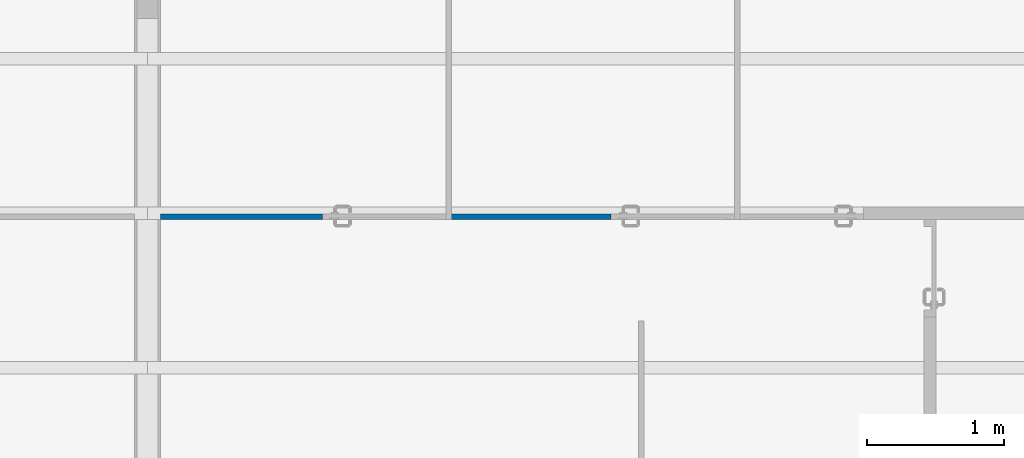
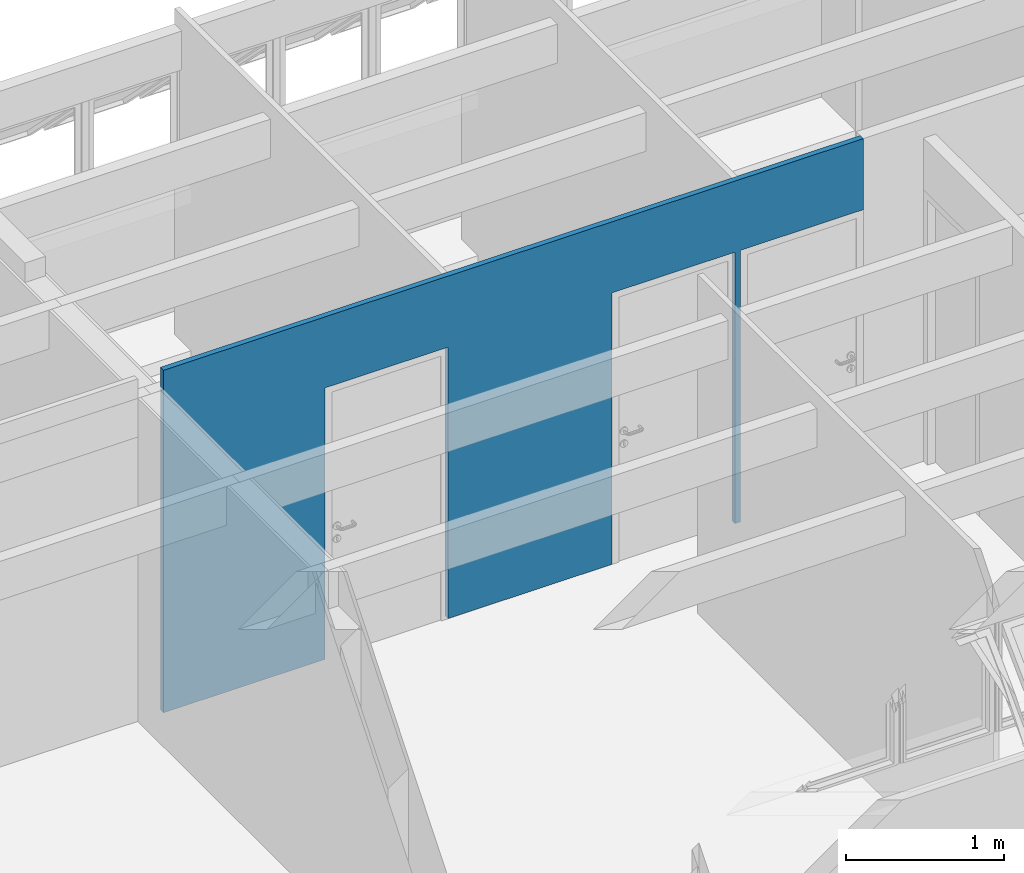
# One storey, part 23 of 37: 1 wall, 3 openings.
"""IFC2X3 building model written with IfcOpenShell, lengths in millimetres."""

from ifc_helpers import new_model, entity, si_unit, converted_unit, derived_unit, money_unit, direction, frame, origin_with_axes, origin_2d_with_axis, place, context, subcontext, project, spatial, polyline, rectangle, outline, extrude, material, layer, layer_set, layer_usage, type_object, element, save


model = new_model("IFC2X3")

# Units and contexts
model_context = context("Model", 3, precision=0.01, world=origin_with_axes(), true_north=direction((0.0, 1.0)))
body_context = subcontext(model_context, "Body", "Model", "MODEL_VIEW")
ifc_project = project(units=[si_unit("LENGTHUNIT", "METRE", prefix="MILLI"), si_unit("AREAUNIT", "SQUARE_METRE"), si_unit("VOLUMEUNIT", "CUBIC_METRE"), converted_unit("PLANEANGLEUNIT", "DEGREE", entity("IfcPlaneAngleMeasure", 0.0174532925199), si_unit("PLANEANGLEUNIT", "RADIAN"), dimensions=[0, 0, 0, 0, 0, 0, 0]), money_unit("USD"), converted_unit("TIMEUNIT", "Year", entity("IfcTimeMeasure", 31556926.0), si_unit("TIMEUNIT", "SECOND"), dimensions=[0, 0, 1, 0, 0, 0, 0]), si_unit("MASSUNIT", "GRAM", prefix="KILO"), si_unit("THERMODYNAMICTEMPERATUREUNIT", "DEGREE_CELSIUS"), si_unit("LUMINOUSINTENSITYUNIT", "LUMEN"), si_unit("ENERGYUNIT", "JOULE", prefix="MEGA"), derived_unit("THERMALCONDUCTANCEUNIT", [(si_unit("POWERUNIT", "WATT"), 1), (si_unit("LENGTHUNIT", "METRE"), -1), (si_unit("THERMODYNAMICTEMPERATUREUNIT", "KELVIN"), -1)]), derived_unit("SPECIFICHEATCAPACITYUNIT", [(si_unit("ENERGYUNIT", "JOULE"), 1), (si_unit("MASSUNIT", "GRAM", prefix="KILO"), -1), (si_unit("THERMODYNAMICTEMPERATUREUNIT", "KELVIN"), -1)]), derived_unit("MASSDENSITYUNIT", [(si_unit("MASSUNIT", "GRAM", prefix="KILO"), 1), (si_unit("VOLUMEUNIT", "CUBIC_METRE"), -1)])], contexts=[model_context])

# Site, building, storey
site_placement = place(None, origin_with_axes())
site = spatial("IfcSite", under=ifc_project, at=site_placement, Name="Local", CompositionType="ELEMENT")
building_placement = place(site_placement, origin_with_axes())
building = spatial("IfcBuilding", under=site, at=building_placement, Name="Construção", CompositionType="ELEMENT")
storey_placement = place(building_placement, origin_with_axes())
storey = spatial("IfcBuildingStorey", under=building, at=storey_placement, Name="Primeiro Pavimento", CompositionType="ELEMENT", Elevation=0.0)

# Wall, openings
ifc_material = material(Name="GENÉRICO - VEDAÇÃO EXTERNA")
ifc_layer = layer(ifc_material, 40.0, ventilated="UNKNOWN")
ifc_layer_set = layer_set([ifc_layer], Name="GENÉRICO - VEDAÇÃO EXTERNA 40")
ifc_layer_usage = layer_usage(ifc_layer_set, "AXIS2", "NEGATIVE", 0.0)
wall_type = type_object("IfcWallType", Name="GENÉRICO - VEDAÇÃO EXTERNA 40", PredefinedType="NOTDEFINED")
wall_placement = place(storey_placement, frame((12600.0, 22394.7804333, 0.0), z_axis=(0.0, 0.0, 1.0), x_axis=(-0.99999999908, 4.28841203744e-05, 0.0)))
wall = element("IfcWallStandardCase", 1, at=wall_placement, inside=storey, type_object=wall_type, material=ifc_layer_usage, Name="APTO4-PAREDE-006", context=body_context, shape_type="SweptSolid", body=[
    extrude(outline(polyline([(0.00085768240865, -40.0), (5120.00172007, -40.0), (5120.00000471, 0.0), (0.0, 0.0), (0.00085768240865, -40.0)])), origin_with_axes(), (0.0, 0.0, 1.0), 2650.0),
])
opening_1_placement = place(wall_placement, frame((1390.00000471, 0.0, 0.0), z_axis=(0.0, 0.0, 1.0), x_axis=(1.0, 0.0, 0.0)))
element("IfcOpeningElement", 2, at=opening_1_placement, cuts=wall, Name="APTO4-PORTA-002", context=body_context, shape_type="SweptSolid", body=[
    extrude(rectangle(XDim=900.0, YDim=2100.0, at=origin_2d_with_axis()), frame((0.0, -40.0, 1050.0), z_axis=(0.0, 1.0, 0.0), x_axis=(-1.0, 0.0, 0.0)), (0.0, 0.0, 1.0), 120.0),
])
opening_2_placement = place(wall_placement, frame((450.000004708, 0.0, 0.0), z_axis=(0.0, 0.0, 1.0), x_axis=(1.0, 0.0, 0.0)))
element("IfcOpeningElement", 3, at=opening_2_placement, cuts=wall, Name="APTO4-PORTA-001", context=body_context, shape_type="SweptSolid", body=[
    extrude(rectangle(XDim=900.0, YDim=2100.0, at=origin_2d_with_axis()), frame((0.0, -40.0, 1050.0), z_axis=(0.0, -1.0, 0.0), x_axis=(1.0, 0.0, 0.0)), (0.0, 0.0, -1.0), 120.0),
])
opening_3_placement = place(wall_placement, frame((3490.00000471, 0.0, 0.0), z_axis=(0.0, 0.0, 1.0), x_axis=(1.0, 0.0, 0.0)))
element("IfcOpeningElement", 4, at=opening_3_placement, cuts=wall, Name="APTO4-PORTA-000", context=body_context, shape_type="SweptSolid", body=[
    extrude(rectangle(XDim=900.0, YDim=2100.0, at=origin_2d_with_axis()), frame((0.0, -40.0, 1050.0), z_axis=(0.0, 1.0, 0.0), x_axis=(-1.0, 0.0, 0.0)), (0.0, 0.0, 1.0), 120.0),
])

save(model, "model.ifc")
